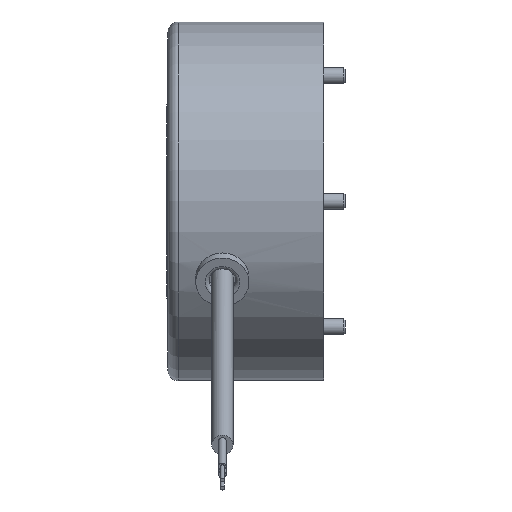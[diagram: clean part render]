
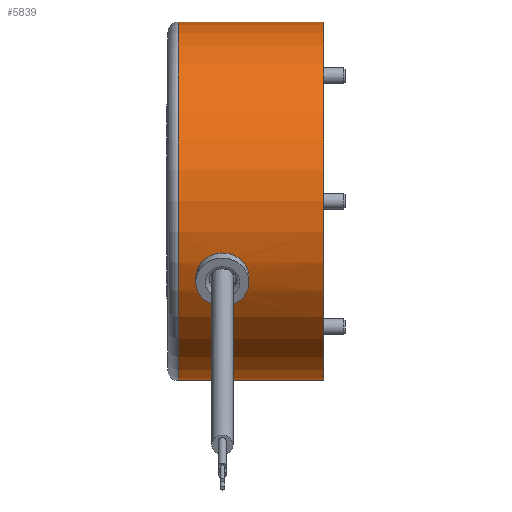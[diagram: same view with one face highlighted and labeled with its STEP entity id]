
A CAD part, front view. The second image highlights one B-rep face of the part: STEP entity #5839.
In plain terms, the highlighted cylindrical face has radius 44.5 mm (diameter 89 mm), a full revolution.
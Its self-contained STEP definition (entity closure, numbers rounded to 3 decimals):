
#157=B_SPLINE_CURVE_WITH_KNOTS('',3,(#10062,#10063,#10064,#10065,#10066,
#10067,#10068,#10069,#10070,#10071,#10072,#10073,#10074,#10075,#10076,#10077,
#10078,#10079),.UNSPECIFIED.,.F.,.F.,(4,2,2,2,2,2,2,2,4),(0.767,
0.959,1.15,1.342,1.533,1.725,
1.917,2.108,2.3),.UNSPECIFIED.);
#158=B_SPLINE_CURVE_WITH_KNOTS('',3,(#10082,#10083,#10084,#10085,#10086,
#10087,#10088,#10089,#10090,#10091,#10092,#10093,#10094,#10095,#10096,#10097,
#10098,#10099,#10100),.UNSPECIFIED.,.F.,.F.,(4,2,2,2,3,2,2,2,4),(2.3,
2.492,2.684,2.875,3.067,3.258,
3.449,3.642,3.834),.UNSPECIFIED.);
#317=CYLINDRICAL_SURFACE('',#6391,44.5);
#422=FACE_BOUND('',#1375,.T.);
#676=CIRCLE('',#6392,44.5);
#677=CIRCLE('',#6393,44.5);
#678=CIRCLE('',#6394,44.5);
#679=CIRCLE('',#6395,44.5);
#680=CIRCLE('',#6396,44.5);
#1028=FACE_OUTER_BOUND('',#1374,.T.);
#1374=EDGE_LOOP('',(#4588,#4589,#4590,#4591,#4592,#4593,#4594));
#1375=EDGE_LOOP('',(#4595,#4596,#4597,#4598,#4599,#4600));
#1717=LINE('',#10189,#2000);
#1718=LINE('',#10195,#2001);
#1719=LINE('',#10196,#2002);
#2000=VECTOR('',#7663,44.5);
#2001=VECTOR('',#7670,10.);
#2002=VECTOR('',#7671,10.);
#2472=VERTEX_POINT('',#9953);
#2473=VERTEX_POINT('',#9954);
#2474=VERTEX_POINT('',#9956);
#2475=VERTEX_POINT('',#9958);
#2494=VERTEX_POINT('',#10184);
#2495=VERTEX_POINT('',#10185);
#2496=VERTEX_POINT('',#10188);
#2497=VERTEX_POINT('',#10190);
#2498=VERTEX_POINT('',#10192);
#3223=EDGE_CURVE('',#2473,#2474,#157,.T.);
#3225=EDGE_CURVE('',#2474,#2473,#158,.T.);
#3240=EDGE_CURVE('',#2494,#2495,#676,.T.);
#3241=EDGE_CURVE('',#2495,#2494,#677,.T.);
#3242=EDGE_CURVE('',#2495,#2496,#1717,.T.);
#3243=EDGE_CURVE('',#2497,#2496,#678,.T.);
#3244=EDGE_CURVE('',#2498,#2497,#679,.T.);
#3245=EDGE_CURVE('',#2496,#2498,#680,.T.);
#3246=EDGE_CURVE('',#2474,#2475,#1718,.T.);
#3247=EDGE_CURVE('',#2472,#2473,#1719,.T.);
#4588=ORIENTED_EDGE('',*,*,#3240,.F.);
#4589=ORIENTED_EDGE('',*,*,#3241,.F.);
#4590=ORIENTED_EDGE('',*,*,#3242,.T.);
#4591=ORIENTED_EDGE('',*,*,#3243,.F.);
#4592=ORIENTED_EDGE('',*,*,#3244,.F.);
#4593=ORIENTED_EDGE('',*,*,#3245,.F.);
#4594=ORIENTED_EDGE('',*,*,#3242,.F.);
#4595=ORIENTED_EDGE('',*,*,#3246,.T.);
#4596=ORIENTED_EDGE('',*,*,#3246,.F.);
#4597=ORIENTED_EDGE('',*,*,#3225,.T.);
#4598=ORIENTED_EDGE('',*,*,#3247,.F.);
#4599=ORIENTED_EDGE('',*,*,#3247,.T.);
#4600=ORIENTED_EDGE('',*,*,#3223,.T.);
#5839=ADVANCED_FACE('',(#1028,#422),#317,.T.);
#6391=AXIS2_PLACEMENT_3D('',#10183,#7657,#7658);
#6392=AXIS2_PLACEMENT_3D('',#10186,#7659,#7660);
#6393=AXIS2_PLACEMENT_3D('',#10187,#7661,#7662);
#6394=AXIS2_PLACEMENT_3D('',#10191,#7664,#7665);
#6395=AXIS2_PLACEMENT_3D('',#10193,#7666,#7667);
#6396=AXIS2_PLACEMENT_3D('',#10194,#7668,#7669);
#7657=DIRECTION('center_axis',(1.,0.,0.));
#7658=DIRECTION('ref_axis',(0.,1.,0.));
#7659=DIRECTION('center_axis',(1.,0.,0.));
#7660=DIRECTION('ref_axis',(0.,1.,0.));
#7661=DIRECTION('center_axis',(1.,0.,0.));
#7662=DIRECTION('ref_axis',(0.,1.,0.));
#7663=DIRECTION('',(-1.,0.,0.));
#7664=DIRECTION('center_axis',(-1.,0.,0.));
#7665=DIRECTION('ref_axis',(0.,-1.,0.));
#7666=DIRECTION('center_axis',(-1.,0.,0.));
#7667=DIRECTION('ref_axis',(0.,-1.,0.));
#7668=DIRECTION('center_axis',(-1.,0.,0.));
#7669=DIRECTION('ref_axis',(0.,-1.,0.));
#7670=DIRECTION('',(1.,0.,0.));
#7671=DIRECTION('',(1.,0.,0.));
#9953=CARTESIAN_POINT('',(-31.8,-40.331,-18.807));
#9954=CARTESIAN_POINT('',(-30.3,-40.331,-18.807));
#9956=CARTESIAN_POINT('',(-20.1,-40.331,-18.807));
#9958=CARTESIAN_POINT('',(-18.6,-40.331,-18.807));
#10062=CARTESIAN_POINT('Ctrl Pts',(-30.3,-40.331,-18.807));
#10063=CARTESIAN_POINT('Ctrl Pts',(-30.3,-40.601,-18.227));
#10064=CARTESIAN_POINT('Ctrl Pts',(-30.171,-40.875,-17.603));
#10065=CARTESIAN_POINT('Ctrl Pts',(-29.647,-41.354,-16.446));
#10066=CARTESIAN_POINT('Ctrl Pts',(-29.253,-41.56,
-15.914));
#10067=CARTESIAN_POINT('Ctrl Pts',(-28.346,-41.873,
-15.069));
#10068=CARTESIAN_POINT('Ctrl Pts',(-27.773,-42.002,
-14.701));
#10069=CARTESIAN_POINT('Ctrl Pts',(-26.52,-42.17,
-14.212));
#10070=CARTESIAN_POINT('Ctrl Pts',(-25.838,-42.21,
-14.091));
#10071=CARTESIAN_POINT('Ctrl Pts',(-24.562,-42.21,
-14.091));
#10072=CARTESIAN_POINT('Ctrl Pts',(-23.88,-42.17,
-14.212));
#10073=CARTESIAN_POINT('Ctrl Pts',(-22.627,-42.002,
-14.701));
#10074=CARTESIAN_POINT('Ctrl Pts',(-22.054,-41.873,
-15.069));
#10075=CARTESIAN_POINT('Ctrl Pts',(-21.147,-41.56,
-15.914));
#10076=CARTESIAN_POINT('Ctrl Pts',(-20.753,-41.354,-16.446));
#10077=CARTESIAN_POINT('Ctrl Pts',(-20.229,-40.875,-17.603));
#10078=CARTESIAN_POINT('Ctrl Pts',(-20.1,-40.601,-18.227));
#10079=CARTESIAN_POINT('Ctrl Pts',(-20.1,-40.331,-18.807));
#10082=CARTESIAN_POINT('Ctrl Pts',(-20.1,-40.331,-18.807));
#10083=CARTESIAN_POINT('Ctrl Pts',(-20.1,-40.06,-19.386));
#10084=CARTESIAN_POINT('Ctrl Pts',(-20.229,-39.759,-19.997));
#10085=CARTESIAN_POINT('Ctrl Pts',(-20.753,-39.181,
-21.108));
#10086=CARTESIAN_POINT('Ctrl Pts',(-21.147,-38.905,
-21.608));
#10087=CARTESIAN_POINT('Ctrl Pts',(-22.054,-38.459,
-22.39));
#10088=CARTESIAN_POINT('Ctrl Pts',(-22.627,-38.26,
-22.726));
#10089=CARTESIAN_POINT('Ctrl Pts',(-23.88,-37.994,
-23.169));
#10090=CARTESIAN_POINT('Ctrl Pts',(-24.562,-37.927,
-23.277));
#10091=CARTESIAN_POINT('Ctrl Pts',(-25.2,-37.927,-23.277));
#10092=CARTESIAN_POINT('Ctrl Pts',(-25.837,-37.927,
-23.277));
#10093=CARTESIAN_POINT('Ctrl Pts',(-26.517,-37.993,
-23.169));
#10094=CARTESIAN_POINT('Ctrl Pts',(-27.77,-38.259,
-22.727));
#10095=CARTESIAN_POINT('Ctrl Pts',(-28.342,-38.458,
-22.393));
#10096=CARTESIAN_POINT('Ctrl Pts',(-29.25,-38.903,
-21.611));
#10097=CARTESIAN_POINT('Ctrl Pts',(-29.645,-39.179,
-21.111));
#10098=CARTESIAN_POINT('Ctrl Pts',(-30.17,-39.758,-19.999));
#10099=CARTESIAN_POINT('Ctrl Pts',(-30.3,-40.06,-19.387));
#10100=CARTESIAN_POINT('Ctrl Pts',(-30.3,-40.331,-18.807));
#10183=CARTESIAN_POINT('Origin',(-19.35,0.,0.));
#10184=CARTESIAN_POINT('',(0.,44.5,0.));
#10185=CARTESIAN_POINT('',(0.,-44.5,0.));
#10186=CARTESIAN_POINT('Origin',(0.,0.,0.));
#10187=CARTESIAN_POINT('Origin',(0.,0.,0.));
#10188=CARTESIAN_POINT('',(-36.2,-44.5,0.));
#10189=CARTESIAN_POINT('',(-19.35,-44.5,0.));
#10190=CARTESIAN_POINT('',(-36.2,44.5,0.));
#10191=CARTESIAN_POINT('Origin',(-36.2,0.,0.));
#10192=CARTESIAN_POINT('',(-36.2,0.,44.5));
#10193=CARTESIAN_POINT('Origin',(-36.2,0.,0.));
#10194=CARTESIAN_POINT('Origin',(-36.2,0.,0.));
#10195=CARTESIAN_POINT('',(-19.35,-40.331,-18.807));
#10196=CARTESIAN_POINT('',(-19.35,-40.331,-18.807));
